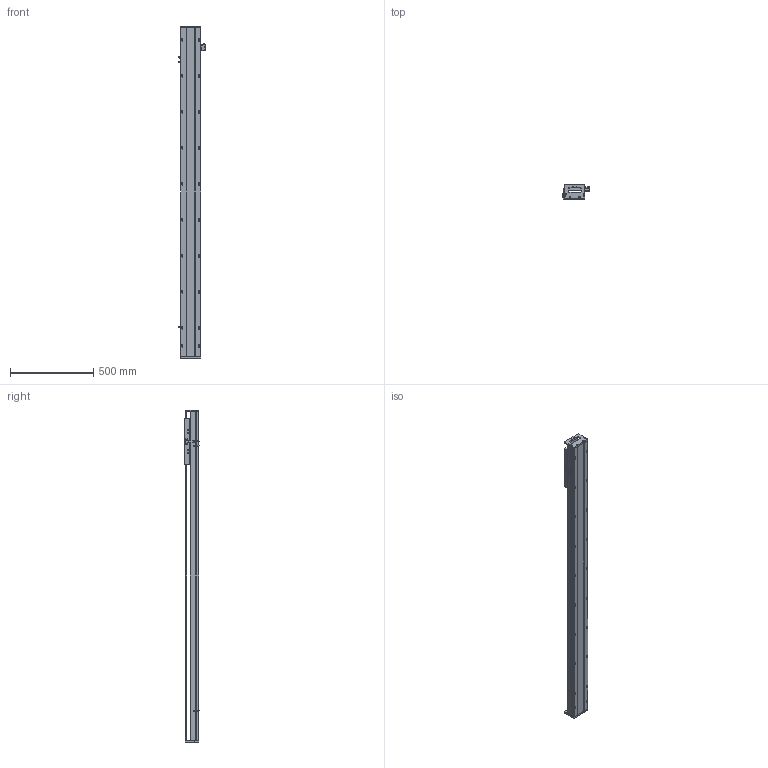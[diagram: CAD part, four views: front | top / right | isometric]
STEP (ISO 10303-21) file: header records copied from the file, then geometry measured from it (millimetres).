
FILE_DESCRIPTION (( 'STEP AP203' ), '1' );
FILE_NAME ('SKR12S-C2-S1612（简）.STEP', '2022-09-26T05:32:07', ( '' ), ( '' ), 'SwSTEP 2.0', 'SolidWorks 2018', '' );
FILE_SCHEMA (( 'CONFIG_CONTROL_DESIGN' ));
Length unit declared in the file: millimetre
Products named in the file (8): SKR12滑台-280L（简）; 棠掑假蚾輸; SKR12菁釱-C2-S1612(潠); SIKO棠掑; SKR12耜啣; 覜茼え; SKR12S-C2-S1612（简）; EE-SX672
Assembly tree (10 placements, depth 2):
  SKR12S-C2-S1612（简）
    SKR12菁釱-C2-S1612(潠)
    SKR12滑台-280L（简）
    SKR12耜啣  x2
    棠掑假蚾輸
    SIKO棠掑
    EE-SX672  x3
    覜茼え
Bounding box: 162.7 x 87.3 x 1992 mm (x, y, z)
Volume: 8896775.3 mm3; surface area: 1399679.8 mm2
Topology: 11 solids, 11 shells, 1088 faces, 2911 edges, 1837 vertices
Faces by surface type: cylinder 522, plane 416, cone 150
Entity records: 30497 total; most frequent: CARTESIAN_POINT 6515, DIRECTION 4947, ORIENTED_EDGE 4754, EDGE_CURVE 2377, AXIS2_PLACEMENT_3D 1845, VERTEX_POINT 1541, VECTOR 1257, LINE 1257
